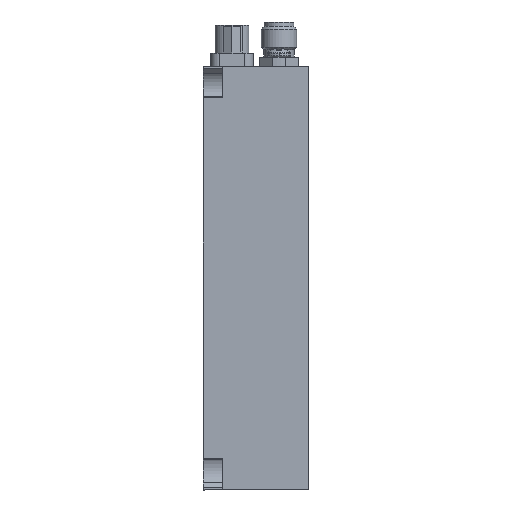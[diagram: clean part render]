
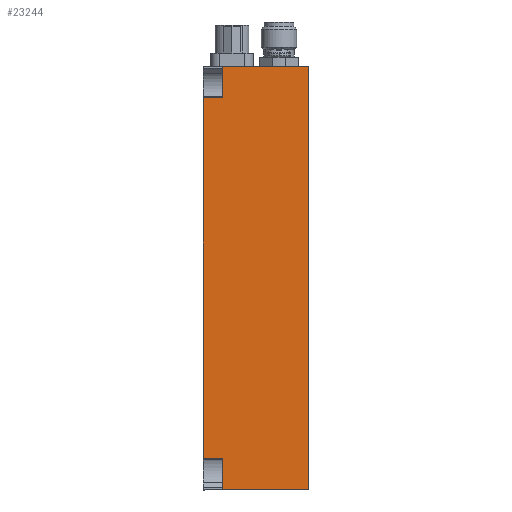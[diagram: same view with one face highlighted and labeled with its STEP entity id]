
A CAD part, left-side view. The second image highlights one B-rep face of the part: STEP entity #23244.
In plain terms, the highlighted planar face has unit normal (-1, 0, 0).
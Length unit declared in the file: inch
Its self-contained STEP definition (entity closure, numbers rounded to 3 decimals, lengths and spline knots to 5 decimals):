
#79 = PLANE ( 'NONE',  #7729 ) ;
#241 = VECTOR ( 'NONE', #21505, 39.37008 ) ;
#405 = VERTEX_POINT ( 'NONE', #21528 ) ;
#1019 = CARTESIAN_POINT ( 'NONE',  ( -0.21071, 2.01151, 0.92779 ) ) ;
#1093 = EDGE_CURVE ( 'NONE', #405, #30286, #24516, .T. ) ;
#1410 = VERTEX_POINT ( 'NONE', #32368 ) ;
#1413 = CARTESIAN_POINT ( 'NONE',  ( -0.21071, 2.15151, 3.70477 ) ) ;
#1633 = LINE ( 'NONE', #21396, #20359 ) ;
#1697 = CARTESIAN_POINT ( 'NONE',  ( -0.21071, 2.15151, 0.70477 ) ) ;
#1961 = CARTESIAN_POINT ( 'NONE',  ( -0.21071, 2.01151, 3.70477 ) ) ;
#2901 = VECTOR ( 'NONE', #8738, 39.37008 ) ;
#3049 = FACE_OUTER_BOUND ( 'NONE', #28371, .T. ) ;
#4128 = VECTOR ( 'NONE', #8323, 39.37008 ) ;
#4322 = VECTOR ( 'NONE', #7459, 39.37008 ) ;
#5183 = CARTESIAN_POINT ( 'NONE',  ( -0.21071, 2.15151, 0.70477 ) ) ;
#6054 = EDGE_CURVE ( 'NONE', #8309, #8818, #10473, .T. ) ;
#6359 = ORIENTED_EDGE ( 'NONE', *, *, #17421, .T. ) ;
#7040 = EDGE_CURVE ( 'NONE', #405, #8818, #25748, .T. ) ;
#7459 = DIRECTION ( 'NONE',  ( 0., 0., 1. ) ) ;
#7729 = AXIS2_PLACEMENT_3D ( 'NONE', #5183, #17853, #19991 ) ;
#8160 = CARTESIAN_POINT ( 'NONE',  ( -0.21071, 2.15151, 0.70477 ) ) ;
#8309 = VERTEX_POINT ( 'NONE', #8424 ) ;
#8323 = DIRECTION ( 'NONE',  ( 0., 0., 1. ) ) ;
#8424 = CARTESIAN_POINT ( 'NONE',  ( -0.21071, 2.15151, 0.92779 ) ) ;
#8738 = DIRECTION ( 'NONE',  ( 0., 0., 1. ) ) ;
#8818 = VERTEX_POINT ( 'NONE', #27203 ) ;
#9028 = ORIENTED_EDGE ( 'NONE', *, *, #21823, .F. ) ;
#9284 = CARTESIAN_POINT ( 'NONE',  ( -0.21071, 2.01151, 3.70477 ) ) ;
#9552 = ORIENTED_EDGE ( 'NONE', *, *, #7040, .T. ) ;
#10473 = LINE ( 'NONE', #8160, #4128 ) ;
#11473 = ORIENTED_EDGE ( 'NONE', *, *, #1093, .F. ) ;
#11752 = DIRECTION ( 'NONE',  ( 0., -1., 0. ) ) ;
#12910 = DIRECTION ( 'NONE',  ( 0., 1., 0. ) ) ;
#14095 = LINE ( 'NONE', #1413, #241 ) ;
#14488 = ORIENTED_EDGE ( 'NONE', *, *, #25052, .T. ) ;
#14806 = EDGE_CURVE ( 'NONE', #1410, #29533, #22117, .T. ) ;
#17325 = CARTESIAN_POINT ( 'NONE',  ( -0.21071, 2.01151, 0.70477 ) ) ;
#17421 = EDGE_CURVE ( 'NONE', #1410, #19863, #21947, .T. ) ;
#17553 = LINE ( 'NONE', #27145, #18672 ) ;
#17853 = DIRECTION ( 'NONE',  ( 1., 0., 0. ) ) ;
#18672 = VECTOR ( 'NONE', #27624, 39.37008 ) ;
#19412 = DIRECTION ( 'NONE',  ( 0., 0., 1. ) ) ;
#19863 = VERTEX_POINT ( 'NONE', #31003 ) ;
#19991 = DIRECTION ( 'NONE',  ( 0., 0., -1. ) ) ;
#20359 = VECTOR ( 'NONE', #19412, 39.37008 ) ;
#20439 = VERTEX_POINT ( 'NONE', #24680 ) ;
#21396 = CARTESIAN_POINT ( 'NONE',  ( -0.21071, 1.40151, 0.70477 ) ) ;
#21505 = DIRECTION ( 'NONE',  ( 0., -1., 0. ) ) ;
#21528 = CARTESIAN_POINT ( 'NONE',  ( -0.21071, 2.01151, 3.48176 ) ) ;
#21823 = EDGE_CURVE ( 'NONE', #30286, #20439, #14095, .T. ) ;
#21947 = LINE ( 'NONE', #1697, #26420 ) ;
#22117 = LINE ( 'NONE', #17325, #4322 ) ;
#22496 = EDGE_CURVE ( 'NONE', #29533, #8309, #17553, .T. ) ;
#23244 = ADVANCED_FACE ( 'NONE', ( #3049 ), #79, .F. ) ;
#23259 = CARTESIAN_POINT ( 'NONE',  ( -0.21071, 2.01151, 3.48176 ) ) ;
#23580 = ORIENTED_EDGE ( 'NONE', *, *, #6054, .F. ) ;
#24516 = LINE ( 'NONE', #1961, #2901 ) ;
#24680 = CARTESIAN_POINT ( 'NONE',  ( -0.21071, 1.40151, 3.70477 ) ) ;
#25052 = EDGE_CURVE ( 'NONE', #19863, #20439, #1633, .T. ) ;
#25748 = LINE ( 'NONE', #23259, #26769 ) ;
#26420 = VECTOR ( 'NONE', #11752, 39.37008 ) ;
#26769 = VECTOR ( 'NONE', #12910, 39.37008 ) ;
#27145 = CARTESIAN_POINT ( 'NONE',  ( -0.21071, 2.01151, 0.92779 ) ) ;
#27203 = CARTESIAN_POINT ( 'NONE',  ( -0.21071, 2.15151, 3.48176 ) ) ;
#27490 = ORIENTED_EDGE ( 'NONE', *, *, #22496, .F. ) ;
#27624 = DIRECTION ( 'NONE',  ( 0., 1., 0. ) ) ;
#28371 = EDGE_LOOP ( 'NONE', ( #23580, #27490, #30591, #6359, #14488, #9028, #11473, #9552 ) ) ;
#29533 = VERTEX_POINT ( 'NONE', #1019 ) ;
#30286 = VERTEX_POINT ( 'NONE', #9284 ) ;
#30591 = ORIENTED_EDGE ( 'NONE', *, *, #14806, .F. ) ;
#31003 = CARTESIAN_POINT ( 'NONE',  ( -0.21071, 1.40151, 0.70477 ) ) ;
#32368 = CARTESIAN_POINT ( 'NONE',  ( -0.21071, 2.01151, 0.70477 ) ) ;
